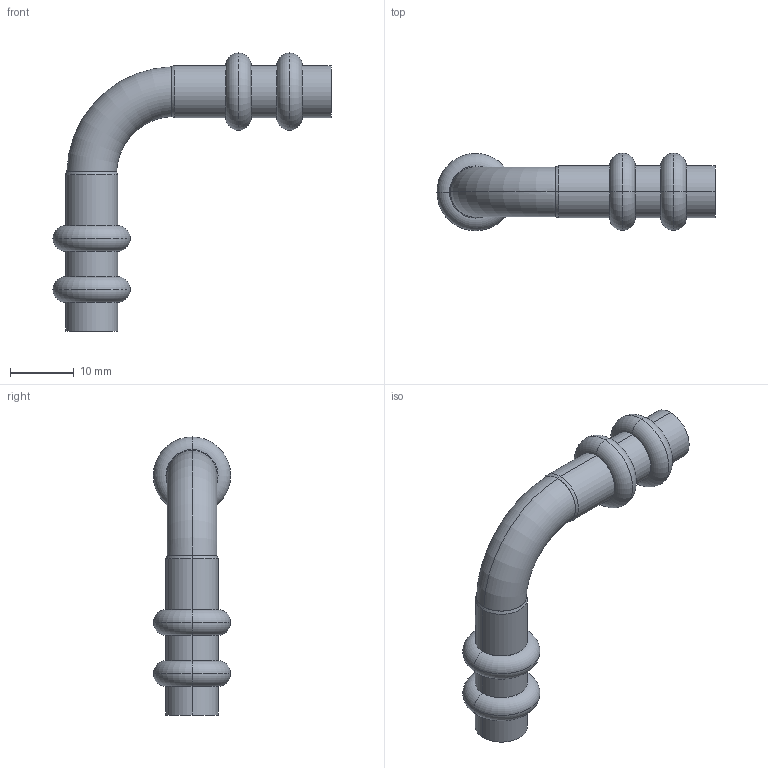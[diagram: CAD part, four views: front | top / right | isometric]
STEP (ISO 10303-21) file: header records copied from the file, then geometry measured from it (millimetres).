
FILE_DESCRIPTION(('starvars output'),'1');
FILE_NAME('cv20240422104854000011776.stp','10:48:54 2024/04/22',('Thomas Industrial Network Germany GmbH'),(' '),'Spatial InterOp 3D',' ',' ');
FILE_SCHEMA(('AUTOMOTIVE_DESIGN { 1 0 10303 214 3 1 1 }'));
Length unit declared in the file: millimetre
Products named in the file (1): 1
Bounding box: 43.55 x 12.1 x 43.55 mm (x, y, z)
Volume: 1842.5 mm3; surface area: 3828.2 mm2
Topology: 1 solids, 1 shells, 70 faces, 140 edges, 88 vertices
Faces by surface type: torus 28, cylinder 20, plane 18, cone 4
Entity records: 2700 total; most frequent: CARTESIAN_POINT 551, DIRECTION 390, ORIENTED_EDGE 280, AXIS2_PLACEMENT_3D 183, EDGE_CURVE 140, CIRCLE 112, EDGE_LOOP 88, VERTEX_POINT 88
